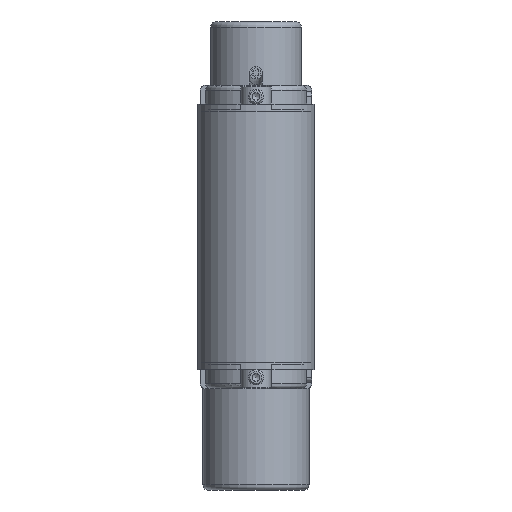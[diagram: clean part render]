
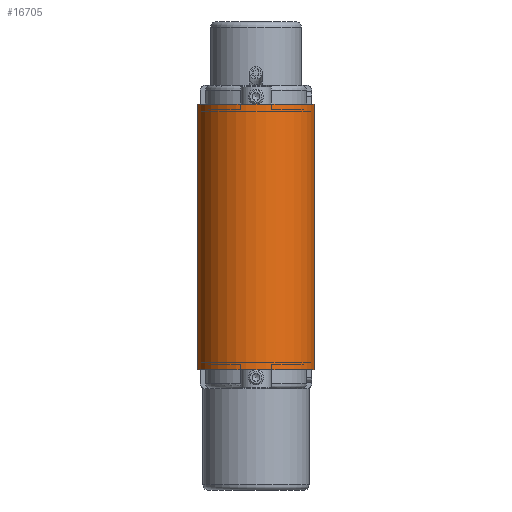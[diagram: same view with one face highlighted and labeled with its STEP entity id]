
A CAD part, front view. The second image highlights one B-rep face of the part: STEP entity #16705.
In plain terms, the highlighted cylindrical face has radius 23.3 mm (diameter 46.6 mm), a partial arc.
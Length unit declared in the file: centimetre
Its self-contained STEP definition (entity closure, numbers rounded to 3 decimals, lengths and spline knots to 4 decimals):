
#1208=FACE_OUTER_BOUND('',#2131,.T.);
#2131=EDGE_LOOP('',(#11272,#11273,#11274,#11275));
#3194=LINE('',#24896,#4470);
#3195=LINE('',#24900,#4471);
#4470=VECTOR('',#20009,1.);
#4471=VECTOR('',#20014,1.);
#5693=CIRCLE('',#17793,2.33);
#5696=CIRCLE('',#17799,2.33);
#6694=VERTEX_POINT('',#24879);
#6695=VERTEX_POINT('',#24880);
#6700=VERTEX_POINT('',#24894);
#6701=VERTEX_POINT('',#24898);
#8469=EDGE_CURVE('',#6694,#6695,#5693,.T.);
#8477=EDGE_CURVE('',#6700,#6695,#3194,.T.);
#8478=EDGE_CURVE('',#6700,#6701,#5696,.T.);
#8479=EDGE_CURVE('',#6694,#6701,#3195,.T.);
#11272=ORIENTED_EDGE('',*,*,#8478,.T.);
#11273=ORIENTED_EDGE('',*,*,#8479,.F.);
#11274=ORIENTED_EDGE('',*,*,#8469,.T.);
#11275=ORIENTED_EDGE('',*,*,#8477,.F.);
#15414=CYLINDRICAL_SURFACE('',#17798,2.33);
#16705=ADVANCED_FACE('',(#1208),#15414,.T.);
#17793=AXIS2_PLACEMENT_3D('',#24881,#19994,#19995);
#17798=AXIS2_PLACEMENT_3D('',#24897,#20010,#20011);
#17799=AXIS2_PLACEMENT_3D('',#24899,#20012,#20013);
#19994=DIRECTION('center_axis',(0.,0.,
-1.));
#19995=DIRECTION('ref_axis',(-1.,0.,0.));
#20009=DIRECTION('',(0.,0.,1.));
#20010=DIRECTION('center_axis',(0.,0.,
-1.));
#20011=DIRECTION('ref_axis',(-1.,0.,0.));
#20012=DIRECTION('center_axis',(0.,0.,
1.));
#20013=DIRECTION('ref_axis',(-1.,0.,0.));
#20014=DIRECTION('',(0.,0.,-1.));
#24879=CARTESIAN_POINT('',(2.33,-147.,5.25));
#24880=CARTESIAN_POINT('',(-2.33,-147.,5.25));
#24881=CARTESIAN_POINT('Origin',(0.,-147.,5.25));
#24894=CARTESIAN_POINT('',(-2.33,-147.,-5.25));
#24896=CARTESIAN_POINT('',(-2.33,-147.,0.));
#24897=CARTESIAN_POINT('Origin',(0.,-147.,0.));
#24898=CARTESIAN_POINT('',(2.33,-147.,-5.25));
#24899=CARTESIAN_POINT('Origin',(0.,-147.,-5.25));
#24900=CARTESIAN_POINT('',(2.33,-147.,0.));
